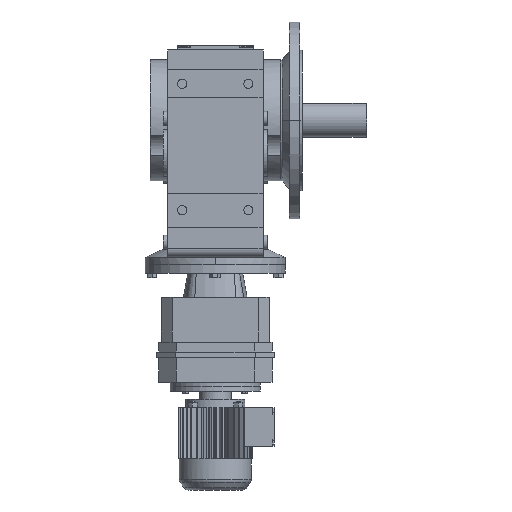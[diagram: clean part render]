
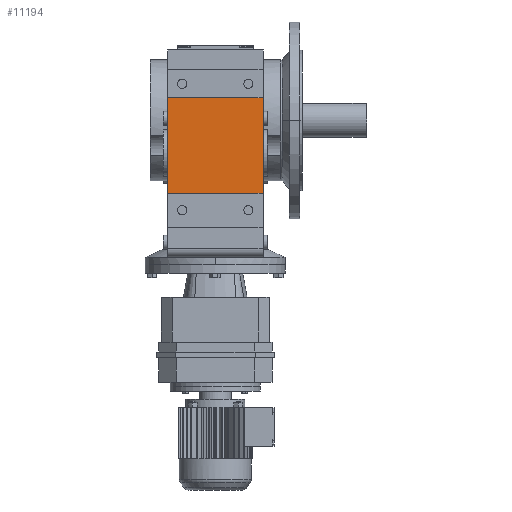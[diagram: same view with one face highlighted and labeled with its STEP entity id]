
A CAD part, front view. The second image highlights one B-rep face of the part: STEP entity #11194.
In plain terms, the highlighted planar face has unit normal (0, -1, 0).
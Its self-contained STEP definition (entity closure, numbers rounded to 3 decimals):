
#834 = PLANE('',#835);
#835 = AXIS2_PLACEMENT_3D('',#836,#837,#838);
#836 = CARTESIAN_POINT('',(85.,-188.58,-228.15));
#837 = DIRECTION('',(-1.,0.,0.));
#838 = DIRECTION('',(0.,0.,1.));
#4924 = VERTEX_POINT('',#4925);
#4925 = CARTESIAN_POINT('',(85.,-204.58,40.));
#4939 = PLANE('',#4940);
#4940 = AXIS2_PLACEMENT_3D('',#4941,#4942,#4943);
#4941 = CARTESIAN_POINT('',(-85.,-204.58,40.));
#4942 = DIRECTION('',(0.,0.,-1.));
#4943 = DIRECTION('',(-1.,0.,0.));
#4951 = EDGE_CURVE('',#4924,#4952,#4954,.T.);
#4952 = VERTEX_POINT('',#4953);
#4953 = CARTESIAN_POINT('',(85.,-204.58,-130.));
#4954 = SURFACE_CURVE('',#4955,(#4959,#4966),.PCURVE_S1.);
#4955 = LINE('',#4956,#4957);
#4956 = CARTESIAN_POINT('',(85.,-204.58,40.));
#4957 = VECTOR('',#4958,1.);
#4958 = DIRECTION('',(0.,0.,-1.));
#4959 = PCURVE('',#834,#4960);
#4960 = DEFINITIONAL_REPRESENTATION('',(#4961),#4965);
#4961 = LINE('',#4962,#4963);
#4962 = CARTESIAN_POINT('',(268.15,-16.));
#4963 = VECTOR('',#4964,1.);
#4964 = DIRECTION('',(-1.,0.));
#4965 = ( GEOMETRIC_REPRESENTATION_CONTEXT(2) 
PARAMETRIC_REPRESENTATION_CONTEXT() REPRESENTATION_CONTEXT('2D SPACE',''
  ) );
#4966 = PCURVE('',#4967,#4972);
#4967 = PLANE('',#4968);
#4968 = AXIS2_PLACEMENT_3D('',#4969,#4970,#4971);
#4969 = CARTESIAN_POINT('',(-85.,-204.58,40.));
#4970 = DIRECTION('',(0.,-1.,0.));
#4971 = DIRECTION('',(0.,0.,-1.));
#4972 = DEFINITIONAL_REPRESENTATION('',(#4973),#4977);
#4973 = LINE('',#4974,#4975);
#4974 = CARTESIAN_POINT('',(0.,170.));
#4975 = VECTOR('',#4976,1.);
#4976 = DIRECTION('',(1.,0.));
#4977 = ( GEOMETRIC_REPRESENTATION_CONTEXT(2) 
PARAMETRIC_REPRESENTATION_CONTEXT() REPRESENTATION_CONTEXT('2D SPACE',''
  ) );
#4995 = PLANE('',#4996);
#4996 = AXIS2_PLACEMENT_3D('',#4997,#4998,#4999);
#4997 = CARTESIAN_POINT('',(-85.,-204.58,-130.));
#4998 = DIRECTION('',(0.,0.,1.));
#4999 = DIRECTION('',(1.,0.,0.));
#9894 = PLANE('',#9895);
#9895 = AXIS2_PLACEMENT_3D('',#9896,#9897,#9898);
#9896 = CARTESIAN_POINT('',(-85.,-188.58,-228.15));
#9897 = DIRECTION('',(-1.,0.,0.));
#9898 = DIRECTION('',(0.,0.,1.));
#10476 = EDGE_CURVE('',#10477,#4924,#10479,.T.);
#10477 = VERTEX_POINT('',#10478);
#10478 = CARTESIAN_POINT('',(-85.,-204.58,40.));
#10479 = SURFACE_CURVE('',#10480,(#10484,#10491),.PCURVE_S1.);
#10480 = LINE('',#10481,#10482);
#10481 = CARTESIAN_POINT('',(-85.,-204.58,40.));
#10482 = VECTOR('',#10483,1.);
#10483 = DIRECTION('',(1.,0.,0.));
#10484 = PCURVE('',#4939,#10485);
#10485 = DEFINITIONAL_REPRESENTATION('',(#10486),#10490);
#10486 = LINE('',#10487,#10488);
#10487 = CARTESIAN_POINT('',(0.,0.));
#10488 = VECTOR('',#10489,1.);
#10489 = DIRECTION('',(-1.,0.));
#10490 = ( GEOMETRIC_REPRESENTATION_CONTEXT(2) 
PARAMETRIC_REPRESENTATION_CONTEXT() REPRESENTATION_CONTEXT('2D SPACE',''
  ) );
#10491 = PCURVE('',#4967,#10492);
#10492 = DEFINITIONAL_REPRESENTATION('',(#10493),#10497);
#10493 = LINE('',#10494,#10495);
#10494 = CARTESIAN_POINT('',(0.,0.));
#10495 = VECTOR('',#10496,1.);
#10496 = DIRECTION('',(0.,1.));
#10497 = ( GEOMETRIC_REPRESENTATION_CONTEXT(2) 
PARAMETRIC_REPRESENTATION_CONTEXT() REPRESENTATION_CONTEXT('2D SPACE',''
  ) );
#11032 = EDGE_CURVE('',#11033,#4952,#11035,.T.);
#11033 = VERTEX_POINT('',#11034);
#11034 = CARTESIAN_POINT('',(-85.,-204.58,-130.));
#11035 = SURFACE_CURVE('',#11036,(#11040,#11047),.PCURVE_S1.);
#11036 = LINE('',#11037,#11038);
#11037 = CARTESIAN_POINT('',(-85.,-204.58,-130.));
#11038 = VECTOR('',#11039,1.);
#11039 = DIRECTION('',(1.,0.,0.));
#11040 = PCURVE('',#4995,#11041);
#11041 = DEFINITIONAL_REPRESENTATION('',(#11042),#11046);
#11042 = LINE('',#11043,#11044);
#11043 = CARTESIAN_POINT('',(0.,0.));
#11044 = VECTOR('',#11045,1.);
#11045 = DIRECTION('',(1.,0.));
#11046 = ( GEOMETRIC_REPRESENTATION_CONTEXT(2) 
PARAMETRIC_REPRESENTATION_CONTEXT() REPRESENTATION_CONTEXT('2D SPACE',''
  ) );
#11047 = PCURVE('',#4967,#11048);
#11048 = DEFINITIONAL_REPRESENTATION('',(#11049),#11053);
#11049 = LINE('',#11050,#11051);
#11050 = CARTESIAN_POINT('',(170.,0.));
#11051 = VECTOR('',#11052,1.);
#11052 = DIRECTION('',(0.,1.));
#11053 = ( GEOMETRIC_REPRESENTATION_CONTEXT(2) 
PARAMETRIC_REPRESENTATION_CONTEXT() REPRESENTATION_CONTEXT('2D SPACE',''
  ) );
#11194 = ADVANCED_FACE('',(#11195),#4967,.T.);
#11195 = FACE_BOUND('',#11196,.T.);
#11196 = EDGE_LOOP('',(#11197,#11198,#11199,#11200));
#11197 = ORIENTED_EDGE('',*,*,#11032,.T.);
#11198 = ORIENTED_EDGE('',*,*,#4951,.F.);
#11199 = ORIENTED_EDGE('',*,*,#10476,.F.);
#11200 = ORIENTED_EDGE('',*,*,#11201,.T.);
#11201 = EDGE_CURVE('',#10477,#11033,#11202,.T.);
#11202 = SURFACE_CURVE('',#11203,(#11207,#11214),.PCURVE_S1.);
#11203 = LINE('',#11204,#11205);
#11204 = CARTESIAN_POINT('',(-85.,-204.58,40.));
#11205 = VECTOR('',#11206,1.);
#11206 = DIRECTION('',(0.,0.,-1.));
#11207 = PCURVE('',#4967,#11208);
#11208 = DEFINITIONAL_REPRESENTATION('',(#11209),#11213);
#11209 = LINE('',#11210,#11211);
#11210 = CARTESIAN_POINT('',(0.,0.));
#11211 = VECTOR('',#11212,1.);
#11212 = DIRECTION('',(1.,0.));
#11213 = ( GEOMETRIC_REPRESENTATION_CONTEXT(2) 
PARAMETRIC_REPRESENTATION_CONTEXT() REPRESENTATION_CONTEXT('2D SPACE',''
  ) );
#11214 = PCURVE('',#9894,#11215);
#11215 = DEFINITIONAL_REPRESENTATION('',(#11216),#11220);
#11216 = LINE('',#11217,#11218);
#11217 = CARTESIAN_POINT('',(268.15,-16.));
#11218 = VECTOR('',#11219,1.);
#11219 = DIRECTION('',(-1.,0.));
#11220 = ( GEOMETRIC_REPRESENTATION_CONTEXT(2) 
PARAMETRIC_REPRESENTATION_CONTEXT() REPRESENTATION_CONTEXT('2D SPACE',''
  ) );
